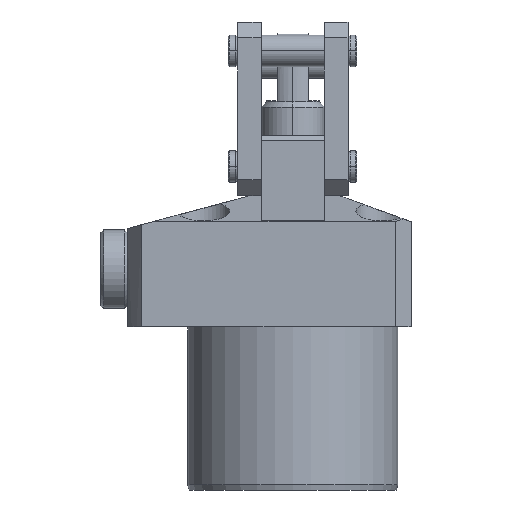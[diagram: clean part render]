
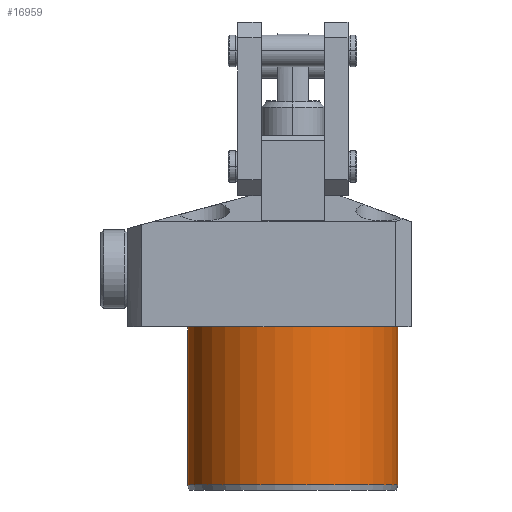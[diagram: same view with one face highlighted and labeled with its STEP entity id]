
A CAD part, front view. The second image highlights one B-rep face of the part: STEP entity #16959.
In plain terms, the highlighted cylindrical face has radius 20 mm (diameter 40 mm), a partial arc.
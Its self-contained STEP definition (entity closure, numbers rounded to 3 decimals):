
#23 = LINE ( 'NONE', #9519, #16257 ) ;
#333 = VERTEX_POINT ( 'NONE', #2137 ) ;
#1067 = CARTESIAN_POINT ( 'NONE',  ( 20., 0., -31. ) ) ;
#1886 = EDGE_CURVE ( 'NONE', #16950, #8528, #9121, .T. ) ;
#1921 = CARTESIAN_POINT ( 'NONE',  ( -20., 0., -30. ) ) ;
#2137 = CARTESIAN_POINT ( 'NONE',  ( 20., 0., -30. ) ) ;
#2970 = EDGE_CURVE ( 'NONE', #11945, #8528, #23, .T. ) ;
#3206 = DIRECTION ( 'NONE',  ( 1., 0., 0. ) ) ;
#3881 = EDGE_LOOP ( 'NONE', ( #6769, #4351, #4238, #16770 ) ) ;
#4238 = ORIENTED_EDGE ( 'NONE', *, *, #8519, .T. ) ;
#4290 = DIRECTION ( 'NONE',  ( 0., 0., 1. ) ) ;
#4351 = ORIENTED_EDGE ( 'NONE', *, *, #8588, .T. ) ;
#4858 = FACE_OUTER_BOUND ( 'NONE', #3881, .T. ) ;
#5012 = DIRECTION ( 'NONE',  ( 0., 0., 1. ) ) ;
#6107 = LINE ( 'NONE', #1067, #12262 ) ;
#6769 = ORIENTED_EDGE ( 'NONE', *, *, #2970, .F. ) ;
#7577 = CARTESIAN_POINT ( 'NONE',  ( 0., 0., 0. ) ) ;
#7760 = DIRECTION ( 'NONE',  ( 0., 0., 1. ) ) ;
#8469 = CARTESIAN_POINT ( 'NONE',  ( 20., 0., 0. ) ) ;
#8519 = EDGE_CURVE ( 'NONE', #333, #16950, #6107, .T. ) ;
#8528 = VERTEX_POINT ( 'NONE', #12916 ) ;
#8588 = EDGE_CURVE ( 'NONE', #11945, #333, #11849, .T. ) ;
#8893 = DIRECTION ( 'NONE',  ( 1., 0., 0. ) ) ;
#9121 = CIRCLE ( 'NONE', #15181, 20. ) ;
#9519 = CARTESIAN_POINT ( 'NONE',  ( -20., 0., -31. ) ) ;
#11099 = DIRECTION ( 'NONE',  ( 0., 0., 1. ) ) ;
#11166 = AXIS2_PLACEMENT_3D ( 'NONE', #14979, #11099, #3206 ) ;
#11849 = CIRCLE ( 'NONE', #14615, 20. ) ;
#11945 = VERTEX_POINT ( 'NONE', #1921 ) ;
#12262 = VECTOR ( 'NONE', #5012, 1000. ) ;
#12916 = CARTESIAN_POINT ( 'NONE',  ( -20., 0., 0. ) ) ;
#14461 = CYLINDRICAL_SURFACE ( 'NONE', #11166, 20. ) ;
#14615 = AXIS2_PLACEMENT_3D ( 'NONE', #15597, #7760, #16903 ) ;
#14979 = CARTESIAN_POINT ( 'NONE',  ( 0., 0., -31. ) ) ;
#15181 = AXIS2_PLACEMENT_3D ( 'NONE', #7577, #16718, #8893 ) ;
#15597 = CARTESIAN_POINT ( 'NONE',  ( 0., 0., -30. ) ) ;
#16257 = VECTOR ( 'NONE', #4290, 1000. ) ;
#16718 = DIRECTION ( 'NONE',  ( 0., 0., -1. ) ) ;
#16770 = ORIENTED_EDGE ( 'NONE', *, *, #1886, .T. ) ;
#16903 = DIRECTION ( 'NONE',  ( -1., 0., 0. ) ) ;
#16950 = VERTEX_POINT ( 'NONE', #8469 ) ;
#16959 = ADVANCED_FACE ( 'NONE', ( #4858 ), #14461, .T. ) ;
